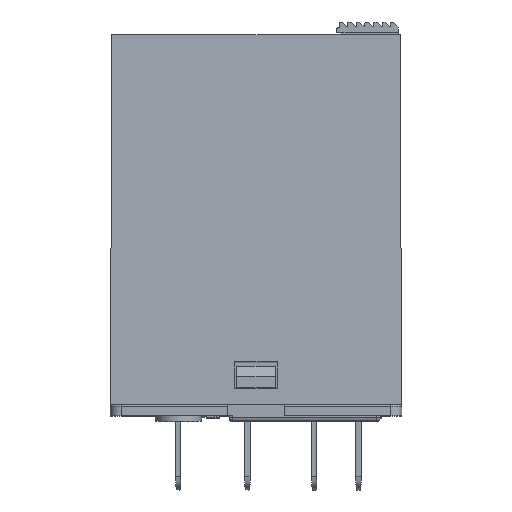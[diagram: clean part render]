
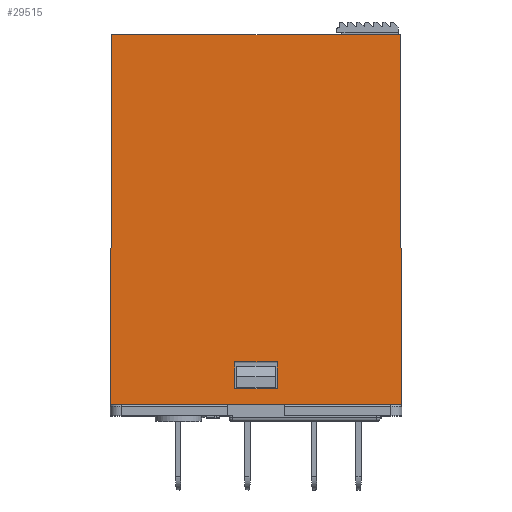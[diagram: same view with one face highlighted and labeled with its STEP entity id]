
A CAD part, top view. The second image highlights one B-rep face of the part: STEP entity #29515.
In plain terms, the highlighted planar face has unit normal (0, 0.004, 1).
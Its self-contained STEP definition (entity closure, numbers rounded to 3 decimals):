
#421 = EDGE_CURVE ( 'NONE', #2112, #38360, #15567, .T. ) ;
#2112 = VERTEX_POINT ( 'NONE', #39262 ) ;
#2348 = VECTOR ( 'NONE', #26707, 1000. ) ;
#2440 = DIRECTION ( 'NONE',  ( 1., 0., 0. ) ) ;
#3030 = CARTESIAN_POINT ( 'NONE',  ( 13.5, 0.966, 10.5 ) ) ;
#3331 = LINE ( 'NONE', #10500, #2348 ) ;
#4105 = FACE_BOUND ( 'NONE', #30377, .T. ) ;
#4139 = LINE ( 'NONE', #11092, #18359 ) ;
#4654 = VECTOR ( 'NONE', #4736, 1000. ) ;
#4736 = DIRECTION ( 'NONE',  ( 1., 0., 0. ) ) ;
#5925 = EDGE_CURVE ( 'NONE', #15108, #38360, #3331, .T. ) ;
#6937 = VECTOR ( 'NONE', #31264, 1000. ) ;
#7022 = EDGE_CURVE ( 'NONE', #40237, #2112, #10845, .T. ) ;
#8658 = CARTESIAN_POINT ( 'NONE',  ( 13.5, 0.966, 10.5 ) ) ;
#9605 = EDGE_CURVE ( 'NONE', #41933, #35611, #39113, .T. ) ;
#9819 = VECTOR ( 'NONE', #14625, 1000. ) ;
#10500 = CARTESIAN_POINT ( 'NONE',  ( 1.95, 4.966, 10.483 ) ) ;
#10562 = LINE ( 'NONE', #27026, #34434 ) ;
#10845 = LINE ( 'NONE', #30668, #9819 ) ;
#11092 = CARTESIAN_POINT ( 'NONE',  ( -13.351, 35.266, 10.35 ) ) ;
#11772 = ORIENTED_EDGE ( 'NONE', *, *, #29003, .F. ) ;
#11915 = VECTOR ( 'NONE', #27104, 1000. ) ;
#12504 = CARTESIAN_POINT ( 'NONE',  ( 1.95, 0.966, 10.5 ) ) ;
#13070 = ORIENTED_EDGE ( 'NONE', *, *, #421, .T. ) ;
#14096 = DIRECTION ( 'NONE',  ( -0.004, -1., 0.004 ) ) ;
#14351 = DIRECTION ( 'NONE',  ( 1., 0., 0. ) ) ;
#14625 = DIRECTION ( 'NONE',  ( -1., 0., 0. ) ) ;
#15108 = VERTEX_POINT ( 'NONE', #30815 ) ;
#15567 = LINE ( 'NONE', #37342, #6937 ) ;
#15766 = DIRECTION ( 'NONE',  ( 0., -1., 0.004 ) ) ;
#16261 = VERTEX_POINT ( 'NONE', #36408 ) ;
#16301 = ORIENTED_EDGE ( 'NONE', *, *, #26800, .F. ) ;
#18359 = VECTOR ( 'NONE', #14351, 1000. ) ;
#18598 = PLANE ( 'NONE',  #41679 ) ;
#18629 = VECTOR ( 'NONE', #15766, 1000. ) ;
#19084 = EDGE_CURVE ( 'NONE', #15108, #40237, #19634, .T. ) ;
#19634 = LINE ( 'NONE', #12504, #18629 ) ;
#20621 = CARTESIAN_POINT ( 'NONE',  ( -1.95, 4.966, 10.483 ) ) ;
#20899 = CARTESIAN_POINT ( 'NONE',  ( 13.5, 0.966, 10.5 ) ) ;
#21857 = DIRECTION ( 'NONE',  ( 0., 0.004, 1. ) ) ;
#24006 = CARTESIAN_POINT ( 'NONE',  ( -13.5, 0.966, 10.5 ) ) ;
#24629 = VERTEX_POINT ( 'NONE', #38414 ) ;
#25712 = ORIENTED_EDGE ( 'NONE', *, *, #7022, .T. ) ;
#26707 = DIRECTION ( 'NONE',  ( -1., 0., 0. ) ) ;
#26800 = EDGE_CURVE ( 'NONE', #24629, #35611, #30192, .T. ) ;
#27026 = CARTESIAN_POINT ( 'NONE',  ( -13.499, 1.084, 10.499 ) ) ;
#27104 = DIRECTION ( 'NONE',  ( 0.004, -1., 0.004 ) ) ;
#28958 = CARTESIAN_POINT ( 'NONE',  ( 1.95, 2.466, 10.493 ) ) ;
#28971 = FACE_OUTER_BOUND ( 'NONE', #31715, .T. ) ;
#29003 = EDGE_CURVE ( 'NONE', #16261, #24629, #4139, .T. ) ;
#29467 = ORIENTED_EDGE ( 'NONE', *, *, #9605, .T. ) ;
#29515 = ADVANCED_FACE ( 'NONE', ( #28971, #4105 ), #18598, .T. ) ;
#30192 = LINE ( 'NONE', #36727, #11915 ) ;
#30377 = EDGE_LOOP ( 'NONE', ( #33566, #41322, #25712, #13070 ) ) ;
#30668 = CARTESIAN_POINT ( 'NONE',  ( 13.5, 2.466, 10.493 ) ) ;
#30815 = CARTESIAN_POINT ( 'NONE',  ( 1.95, 4.966, 10.483 ) ) ;
#31264 = DIRECTION ( 'NONE',  ( 0., 1., -0.004 ) ) ;
#31280 = EDGE_CURVE ( 'NONE', #16261, #41933, #10562, .T. ) ;
#31715 = EDGE_LOOP ( 'NONE', ( #16301, #11772, #35393, #29467 ) ) ;
#33566 = ORIENTED_EDGE ( 'NONE', *, *, #5925, .F. ) ;
#34434 = VECTOR ( 'NONE', #14096, 1000. ) ;
#35393 = ORIENTED_EDGE ( 'NONE', *, *, #31280, .T. ) ;
#35611 = VERTEX_POINT ( 'NONE', #3030 ) ;
#36408 = CARTESIAN_POINT ( 'NONE',  ( -13.35, 35.266, 10.35 ) ) ;
#36727 = CARTESIAN_POINT ( 'NONE',  ( 13.5, 0.966, 10.5 ) ) ;
#37342 = CARTESIAN_POINT ( 'NONE',  ( -1.95, 0.966, 10.5 ) ) ;
#38360 = VERTEX_POINT ( 'NONE', #20621 ) ;
#38414 = CARTESIAN_POINT ( 'NONE',  ( 13.35, 35.266, 10.35 ) ) ;
#39113 = LINE ( 'NONE', #20899, #4654 ) ;
#39262 = CARTESIAN_POINT ( 'NONE',  ( -1.95, 2.466, 10.493 ) ) ;
#40237 = VERTEX_POINT ( 'NONE', #28958 ) ;
#41322 = ORIENTED_EDGE ( 'NONE', *, *, #19084, .T. ) ;
#41679 = AXIS2_PLACEMENT_3D ( 'NONE', #8658, #21857, #2440 ) ;
#41933 = VERTEX_POINT ( 'NONE', #24006 ) ;
